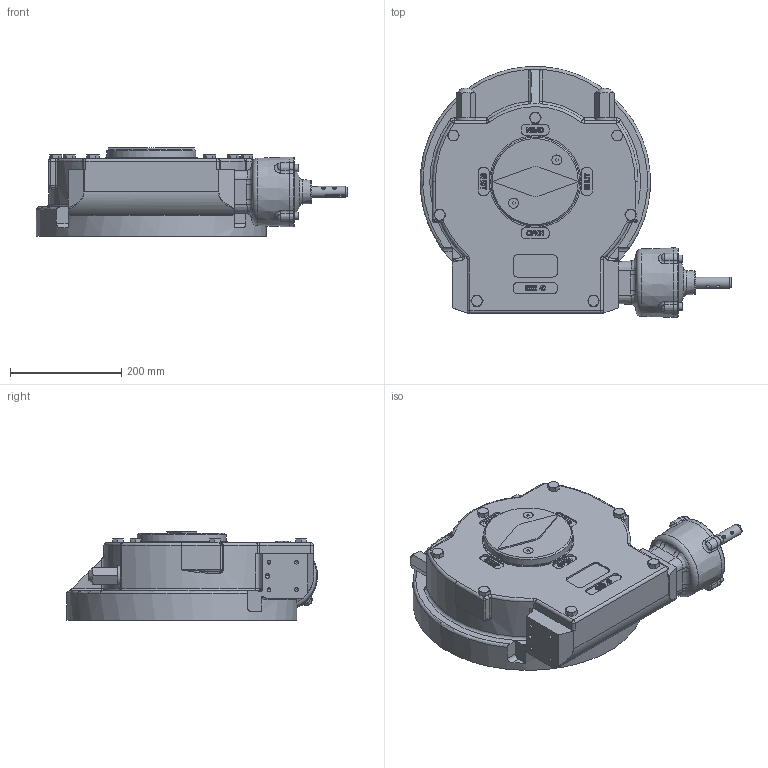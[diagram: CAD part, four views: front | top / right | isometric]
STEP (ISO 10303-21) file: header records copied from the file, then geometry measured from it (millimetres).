
FILE_DESCRIPTION( ( 'Unknown' ), '1' );
FILE_NAME( 'M:/Current Drawings/Internet datasheets/4 - STEP/AB6800W-PR4 LB LH.stp', 'Unknown', ( 'Unknown' ), ( 'Unknown' ), 'PSStep 15.0.49', 'Unknown', ' ' );
FILE_SCHEMA( ( 'AUTOMOTIVE_DESIGN { 1 0 10303 214 1 1 1 1 }' ) );
Length unit declared in the file: millimetre
Products named in the file (1): 22F0Z10000001
Bounding box: 561.07 x 452.19 x 159.9 mm (x, y, z)
Volume: 12998156.8 mm3; surface area: 1199449.7 mm2
Topology: 1 solids, 43 shells, 2339 faces, 6251 edges, 4011 vertices
Faces by surface type: plane 758, cylinder 748, cone 400, torus 283, bspline 62, sphere 50, extrusion 38
Full cylindrical faces by diameter (mm): 6 x2, 6.647 x26, 8 x9, 8.5 x4, 9 x6, 10.106 x14, 12 x7, 13.27 x4, 14 x11, 17.294 x2, 19 x1, 20 x5, 23 x1, 25 x2, 26 x1, 29 x1, 30 x1, 36 x2, 38 x2, 102 x1, 104.555 x1, 110 x3, 110.25 x1, 125.95 x2, 130 x6, 135 x1, 140 x1, 146 x1, 151.6 x1, 160 x1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
Entity records: 107366 total; most frequent: CARTESIAN_POINT 33883, ORIENTED_EDGE 11678, DIRECTION 10918, EDGE_CURVE 5839, AXIS2_PLACEMENT_3D 4498, VERTEX_POINT 3899, EDGE_LOOP 2685, FACE_OUTER_BOUND 2492
